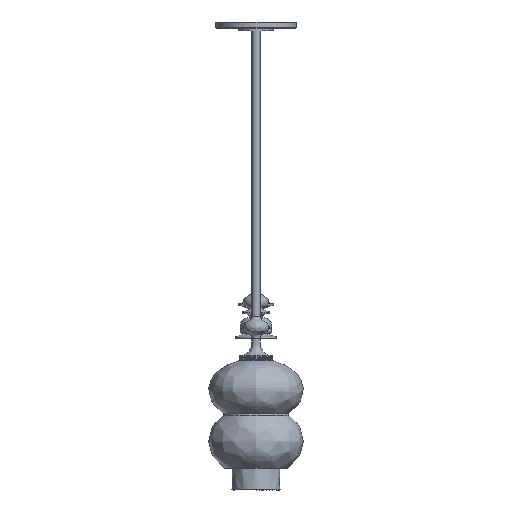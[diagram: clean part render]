
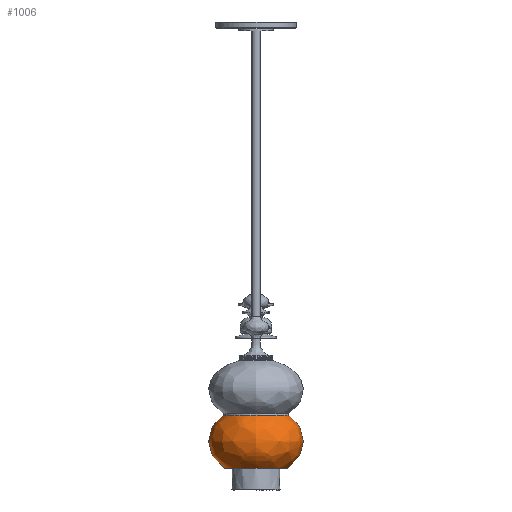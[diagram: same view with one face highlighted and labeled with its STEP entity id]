
A CAD part, left-side view. The second image highlights one B-rep face of the part: STEP entity #1006.
In plain terms, the highlighted free-form (B-spline) face has degree [2, 3] with [9, 7] control points.
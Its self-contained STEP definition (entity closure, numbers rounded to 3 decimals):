
#1006=ADVANCED_FACE('',(#1682),#9298,.T.);
#1682=FACE_OUTER_BOUND('',#2388,.T.);
#2388=EDGE_LOOP('',(#5131,#5132,#5133,#5134));
#5131=ORIENTED_EDGE('',*,*,#6522,.F.);
#5132=ORIENTED_EDGE('',*,*,#6527,.T.);
#5133=ORIENTED_EDGE('',*,*,#6522,.T.);
#5134=ORIENTED_EDGE('',*,*,#6531,.F.);
#6522=EDGE_CURVE('',#8749,#8752,#7443,.T.);
#6527=EDGE_CURVE('',#8749,#8749,#7448,.T.);
#6531=EDGE_CURVE('',#8752,#8752,#7452,.T.);
#7443=(
BOUNDED_CURVE()
B_SPLINE_CURVE(3,(#115715,#115716,#115717,#115718,#115719,#115720,#115721),
 .UNSPECIFIED.,.F.,.F.)
B_SPLINE_CURVE_WITH_KNOTS((4,3,4),(-35.64,-34.804,
-33.993),.UNSPECIFIED.)
CURVE()
GEOMETRIC_REPRESENTATION_ITEM()
RATIONAL_B_SPLINE_CURVE((1.,0.992,1.049,1.171,
1.053,0.996,1.))
REPRESENTATION_ITEM('')
);
#7448=(
BOUNDED_CURVE()
B_SPLINE_CURVE(2,(#115748,#115749,#115750,#115751,#115752,#115753,#115754,
#115755,#115756),.UNSPECIFIED.,.T.,.F.)
B_SPLINE_CURVE_WITH_KNOTS((3,2,2,2,3),(0.,109.905,219.81,
329.716,439.621),.UNSPECIFIED.)
CURVE()
GEOMETRIC_REPRESENTATION_ITEM()
RATIONAL_B_SPLINE_CURVE((1.,0.707,1.,0.707,1.,0.707,
1.,0.707,1.))
REPRESENTATION_ITEM('')
);
#7452=(
BOUNDED_CURVE()
B_SPLINE_CURVE(2,(#115784,#115785,#115786,#115787,#115788,#115789,#115790,
#115791,#115792),.UNSPECIFIED.,.T.,.F.)
B_SPLINE_CURVE_WITH_KNOTS((3,2,2,2,3),(0.,82.989,
165.978,248.967,331.956),.UNSPECIFIED.)
CURVE()
GEOMETRIC_REPRESENTATION_ITEM()
RATIONAL_B_SPLINE_CURVE((1.,0.707,1.,0.707,1.,0.707,
1.,0.707,1.))
REPRESENTATION_ITEM('')
);
#8749=VERTEX_POINT('',#115576);
#8752=VERTEX_POINT('',#115579);
#9298=(
BOUNDED_SURFACE()
B_SPLINE_SURFACE(2,3,((#115419,#115420,#115421,#115422,#115423,#115424,
#115425),(#115426,#115427,#115428,#115429,#115430,#115431,#115432),(#115433,
#115434,#115435,#115436,#115437,#115438,#115439),(#115440,#115441,#115442,
#115443,#115444,#115445,#115446),(#115447,#115448,#115449,#115450,#115451,
#115452,#115453),(#115454,#115455,#115456,#115457,#115458,#115459,#115460),
(#115461,#115462,#115463,#115464,#115465,#115466,#115467),(#115468,#115469,
#115470,#115471,#115472,#115473,#115474),(#115475,#115476,#115477,#115478,
#115479,#115480,#115481)),.UNSPECIFIED.,.T.,.F.,.F.)
B_SPLINE_SURFACE_WITH_KNOTS((3,2,2,2,3),(4,3,4),(0.,109.905,219.81,
329.716,439.621),(-35.64,-34.804,
-33.951),.UNSPECIFIED.)
GEOMETRIC_REPRESENTATION_ITEM()
RATIONAL_B_SPLINE_SURFACE(((1.,0.992,1.049,1.171,
1.047,0.99,1.001),(0.707,
0.702,0.742,0.828,0.74,
0.7,0.708),(1.,0.992,1.049,
1.171,1.047,0.99,1.001),(0.707,
0.702,0.742,0.828,0.74,
0.7,0.708),(1.,0.992,1.049,
1.171,1.047,0.99,1.001),(0.707,
0.702,0.742,0.828,0.74,
0.7,0.708),(1.,0.992,1.049,
1.171,1.047,0.99,1.001),(0.707,
0.702,0.742,0.828,0.74,
0.7,0.708),(1.,0.992,1.049,
1.171,1.047,0.99,1.001)))
REPRESENTATION_ITEM('')
SURFACE()
);
#115419=CARTESIAN_POINT('',(-50.,0.,-704.617));
#115420=CARTESIAN_POINT('',(-66.553,0.,-693.449));
#115421=CARTESIAN_POINT('',(-74.955,0.,-678.397));
#115422=CARTESIAN_POINT('',(-75.,0.,-662.526));
#115423=CARTESIAN_POINT('',(-75.046,0.,-646.292));
#115424=CARTESIAN_POINT('',(-66.364,0.,-630.903));
#115425=CARTESIAN_POINT('',(-49.226,0.,-619.617));
#115426=CARTESIAN_POINT('',(-50.,-50.,-704.617));
#115427=CARTESIAN_POINT('',(-66.553,-66.553,-693.449));
#115428=CARTESIAN_POINT('',(-74.955,-74.955,-678.397));
#115429=CARTESIAN_POINT('',(-75.,-75.,-662.526));
#115430=CARTESIAN_POINT('',(-75.046,-75.046,-646.292));
#115431=CARTESIAN_POINT('',(-66.364,-66.364,-630.903));
#115432=CARTESIAN_POINT('',(-49.226,-49.226,-619.617));
#115433=CARTESIAN_POINT('',(0.,-50.,-704.617));
#115434=CARTESIAN_POINT('',(0.,-66.553,-693.449));
#115435=CARTESIAN_POINT('',(0.,-74.955,-678.397));
#115436=CARTESIAN_POINT('',(0.,-75.,-662.526));
#115437=CARTESIAN_POINT('',(0.,-75.046,-646.292));
#115438=CARTESIAN_POINT('',(0.,-66.364,-630.903));
#115439=CARTESIAN_POINT('',(0.,-49.226,-619.617));
#115440=CARTESIAN_POINT('',(50.,-50.,-704.617));
#115441=CARTESIAN_POINT('',(66.553,-66.553,-693.449));
#115442=CARTESIAN_POINT('',(74.955,-74.955,-678.397));
#115443=CARTESIAN_POINT('',(75.,-75.,-662.526));
#115444=CARTESIAN_POINT('',(75.046,-75.046,-646.292));
#115445=CARTESIAN_POINT('',(66.364,-66.364,-630.903));
#115446=CARTESIAN_POINT('',(49.226,-49.226,-619.617));
#115447=CARTESIAN_POINT('',(50.,0.,-704.617));
#115448=CARTESIAN_POINT('',(66.553,0.,-693.449));
#115449=CARTESIAN_POINT('',(74.955,0.,-678.397));
#115450=CARTESIAN_POINT('',(75.,0.,-662.526));
#115451=CARTESIAN_POINT('',(75.046,0.,-646.292));
#115452=CARTESIAN_POINT('',(66.364,0.,-630.903));
#115453=CARTESIAN_POINT('',(49.226,0.,-619.617));
#115454=CARTESIAN_POINT('',(50.,50.,-704.617));
#115455=CARTESIAN_POINT('',(66.553,66.553,-693.449));
#115456=CARTESIAN_POINT('',(74.955,74.955,-678.397));
#115457=CARTESIAN_POINT('',(75.,75.,-662.526));
#115458=CARTESIAN_POINT('',(75.046,75.046,-646.292));
#115459=CARTESIAN_POINT('',(66.364,66.364,-630.903));
#115460=CARTESIAN_POINT('',(49.226,49.226,-619.617));
#115461=CARTESIAN_POINT('',(0.,50.,-704.617));
#115462=CARTESIAN_POINT('',(0.,66.553,-693.449));
#115463=CARTESIAN_POINT('',(0.,74.955,-678.397));
#115464=CARTESIAN_POINT('',(0.,75.,-662.526));
#115465=CARTESIAN_POINT('',(0.,75.046,-646.292));
#115466=CARTESIAN_POINT('',(0.,66.364,-630.903));
#115467=CARTESIAN_POINT('',(0.,49.226,-619.617));
#115468=CARTESIAN_POINT('',(-50.,50.,-704.617));
#115469=CARTESIAN_POINT('',(-66.553,66.553,-693.449));
#115470=CARTESIAN_POINT('',(-74.955,74.955,-678.397));
#115471=CARTESIAN_POINT('',(-75.,75.,-662.526));
#115472=CARTESIAN_POINT('',(-75.046,75.046,-646.292));
#115473=CARTESIAN_POINT('',(-66.364,66.364,-630.903));
#115474=CARTESIAN_POINT('',(-49.226,49.226,-619.617));
#115475=CARTESIAN_POINT('',(-50.,0.,-704.617));
#115476=CARTESIAN_POINT('',(-66.553,0.,-693.449));
#115477=CARTESIAN_POINT('',(-74.955,0.,-678.397));
#115478=CARTESIAN_POINT('',(-75.,0.,-662.526));
#115479=CARTESIAN_POINT('',(-75.046,0.,-646.292));
#115480=CARTESIAN_POINT('',(-66.364,0.,-630.903));
#115481=CARTESIAN_POINT('',(-49.226,0.,-619.617));
#115576=CARTESIAN_POINT('',(-50.,0.,-704.617));
#115579=CARTESIAN_POINT('',(-51.665,0.,-621.295));
#115715=CARTESIAN_POINT('',(-50.,0.,-704.617));
#115716=CARTESIAN_POINT('',(-66.553,0.,-693.449));
#115717=CARTESIAN_POINT('',(-74.955,0.,-678.397));
#115718=CARTESIAN_POINT('',(-75.,0.,-662.526));
#115719=CARTESIAN_POINT('',(-75.043,0.,-647.174));
#115720=CARTESIAN_POINT('',(-67.237,0.,-632.496));
#115721=CARTESIAN_POINT('',(-51.665,0.,-621.295));
#115748=CARTESIAN_POINT('',(-50.,0.,-704.617));
#115749=CARTESIAN_POINT('',(-50.,-50.,-704.617));
#115750=CARTESIAN_POINT('',(0.,-50.,-704.617));
#115751=CARTESIAN_POINT('',(50.,-50.,-704.617));
#115752=CARTESIAN_POINT('',(50.,0.,-704.617));
#115753=CARTESIAN_POINT('',(50.,50.,-704.617));
#115754=CARTESIAN_POINT('',(0.,50.,-704.617));
#115755=CARTESIAN_POINT('',(-50.,50.,-704.617));
#115756=CARTESIAN_POINT('',(-50.,0.,-704.617));
#115784=CARTESIAN_POINT('',(-51.665,0.,-621.295));
#115785=CARTESIAN_POINT('',(-51.665,-51.665,-621.295));
#115786=CARTESIAN_POINT('',(0.,-51.665,-621.295));
#115787=CARTESIAN_POINT('',(51.665,-51.665,-621.295));
#115788=CARTESIAN_POINT('',(51.665,0.,-621.295));
#115789=CARTESIAN_POINT('',(51.665,51.665,-621.295));
#115790=CARTESIAN_POINT('',(0.,51.665,-621.295));
#115791=CARTESIAN_POINT('',(-51.665,51.665,-621.295));
#115792=CARTESIAN_POINT('',(-51.665,0.,-621.295));
